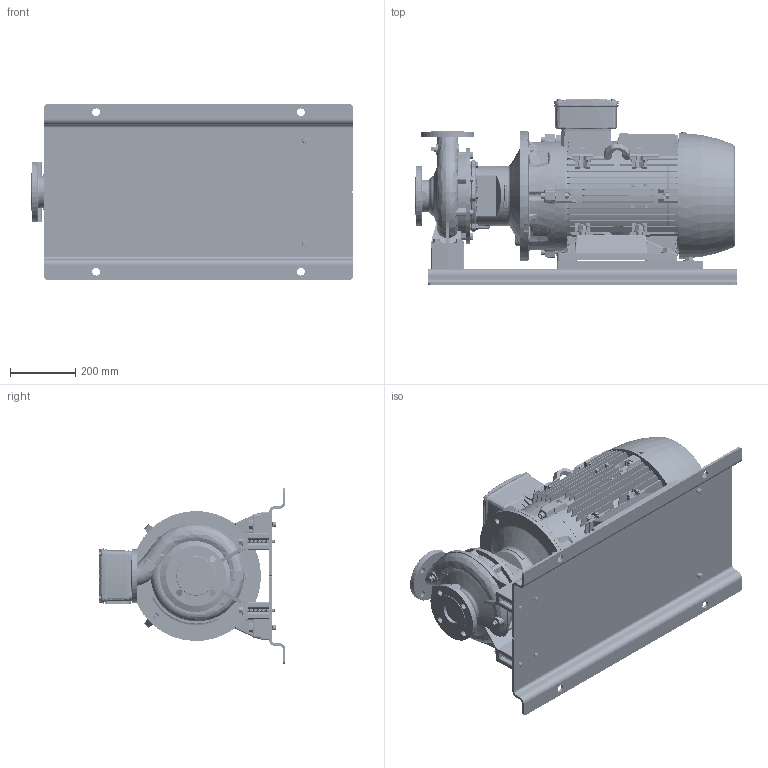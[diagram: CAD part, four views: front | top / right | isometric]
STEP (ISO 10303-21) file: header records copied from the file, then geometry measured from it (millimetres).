
FILE_DESCRIPTION (( 'STEP AP214' ), '1' );
FILE_NAME ('GSD2 50-200_30.0_(200ML)_W21_BP.STEP', '2024-04-30T03:06:49', ( '' ), ( '' ), 'SwSTEP 2.0', 'SolidWorks 2019', '' );
FILE_SCHEMA (( 'AUTOMOTIVE_DESIGN' ));
Length unit declared in the file: millimetre
Products named in the file (18): CGS11-5301_2_3_4_5_CGS11-5305; Parametric bolt and washer_SFT-A359B; CGS11-5301_2_3_4_5_CGS11-5304; 80x25 - CGSDA-5271; Parametric Flat Washer_M16; Parametric Flat Washer_M12; 50-200-200M_L; GSD2  50-200_30.0_(200ML)_W21_BP; Parametric bolt_SFT-A359B; N6S2 GSDA-623 F1-1832936-00; 200M_L ALIE3_W21T_B35; Parametric Nut_M12; Parametric Stud Bolt_SFSK-AB308
Assembly tree (39 placements, depth 3):
  GSD2  50-200_30.0_(200ML)_W21_BP
    50-200-200M_L
    N6S2 GSDA-623 F1-1832936-00
    CGS11-5301_2_3_4_5_CGS11-5305  x2
    CGS11-5301_2_3_4_5_CGS11-5304  x2
    80x25 - CGSDA-5271  x2
    Parametric Stud Bolt_SFSK-AB308  x4
    Parametric bolt and washer_SFT-A359B
      Parametric bolt_SFT-A359B
      Parametric Flat Washer_M16
    Parametric bolt and washer_SFT-A359B
      Parametric bolt_SFT-A359B
      Parametric Flat Washer_M16
    Parametric Flat Washer_M12  x4
    Parametric Nut_M12  x4
    200M_L ALIE3_W21T_B35
    Parametric bolt and washer_SFT-A359B
      Parametric bolt_SFT-A359B
      Parametric Flat Washer_M16
    Parametric bolt and washer_SFT-A359B
      Parametric bolt_SFT-A359B
      Parametric Flat Washer_M16
    Parametric bolt and washer_SFT-A359B
      Parametric bolt_SFT-A359B
      Parametric Flat Washer_M16
    Parametric bolt and washer_SFT-A359B
      Parametric bolt_SFT-A359B
      Parametric Flat Washer_M16
Bounding box: 990 x 574.5 x 540 mm (x, y, z)
Volume: 84098782.8 mm3; surface area: 5411397.3 mm2
Topology: 63 solids, 73 shells, 8026 faces, 20954 edges, 13515 vertices
Faces by surface type: plane 4394, cylinder 1796, bspline 975, cone 622, torus 235, sphere 4
Entity records: 298078 total; most frequent: CARTESIAN_POINT 119775, ORIENTED_EDGE 37006, DIRECTION 30049, EDGE_CURVE 18503, VERTEX_POINT 11988, VECTOR 11251, LINE 11251, AXIS2_PLACEMENT_3D 9399
